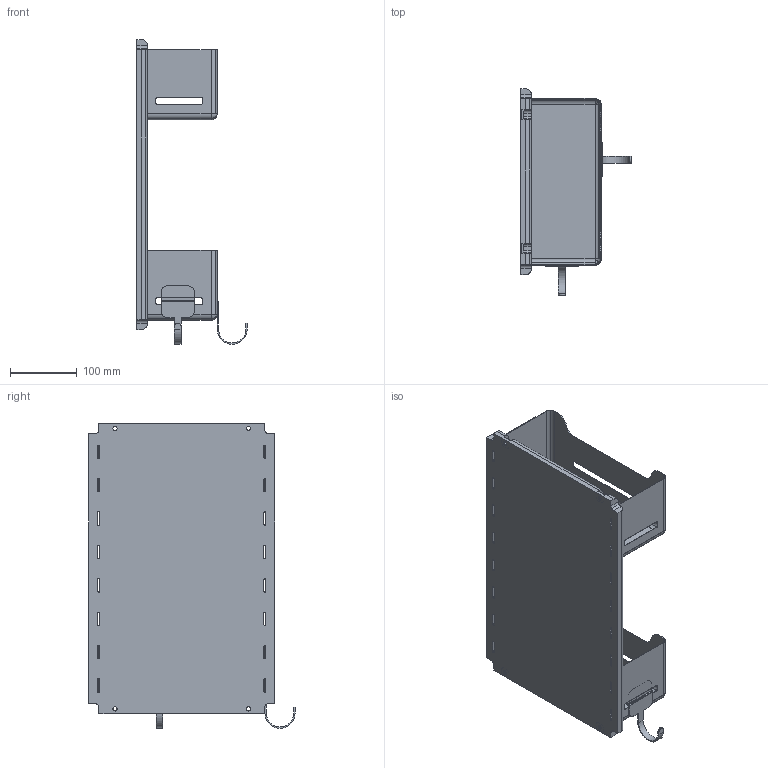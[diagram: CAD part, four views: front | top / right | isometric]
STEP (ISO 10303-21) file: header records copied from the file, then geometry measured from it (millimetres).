
FILE_DESCRIPTION(('STEP AP242'),'1');
FILE_NAME('OPO_53.349.05_volu_schn_3d.stp','2025-11-08T20:28:32',(' '),(' '),'Spatial InterOp 3D',' ',' ');
FILE_SCHEMA(('AP242_MANAGED_MODEL_BASED_3D_ENGINEERING_MIM_LF {1 0 10303 442 1 1 4}'));
Length unit declared in the file: millimetre
Products named in the file (1): 1
Bounding box: 165.3 x 308.5 x 456 mm (x, y, z)
Volume: 1984625.3 mm3; surface area: 539291 mm2
Topology: 5 solids, 5 shells, 558 faces, 2382 edges, 2656 vertices
Faces by surface type: cylinder 340, plane 202, sphere 16
Entity records: 32776 total; most frequent: DIRECTION 4365, CARTESIAN_POINT 3966, ORIENTED_EDGE 3124, EDGE_CURVE 1562, LINE 1527, VECTOR 1527, AXIS2_PLACEMENT_3D 1419, STYLED_ITEM 1378
